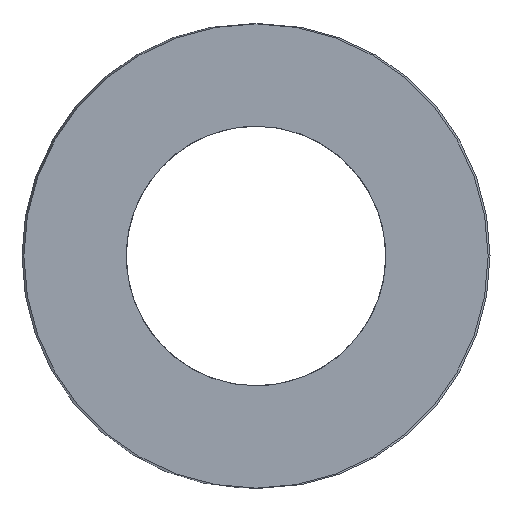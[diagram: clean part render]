
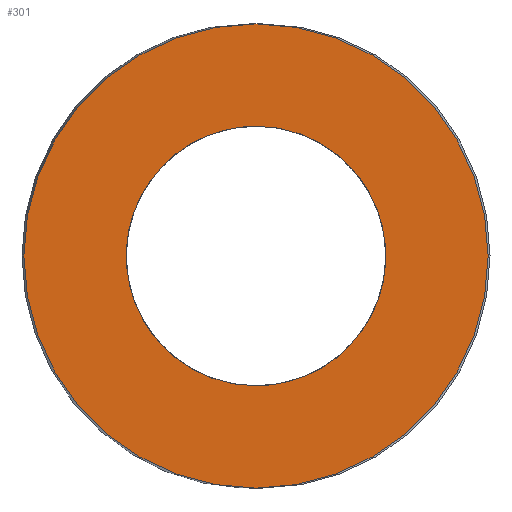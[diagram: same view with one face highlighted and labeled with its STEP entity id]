
A CAD part, left-side view. The second image highlights one B-rep face of the part: STEP entity #301.
In plain terms, the highlighted planar face has unit normal (-1, 0, 0).
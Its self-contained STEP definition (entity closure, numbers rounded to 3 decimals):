
#63=CARTESIAN_POINT('Vertex',(0.,12.25,0.)) ;
#77=CARTESIAN_POINT('Vertex',(0.,-12.25,0.)) ;
#80=CARTESIAN_POINT('Axis2P3D Location',(0.,0.,0.)) ;
#97=CARTESIAN_POINT('Axis2P3D Location',(0.,0.,0.)) ;
#232=CARTESIAN_POINT('Axis2P3D Location',(0.,6.125,0.)) ;
#242=CARTESIAN_POINT('Control Point',(0.,0.,-6.85)) ;
#243=CARTESIAN_POINT('Control Point',(0.,0.641,-6.85)) ;
#244=CARTESIAN_POINT('Control Point',(0.,1.282,-6.775)) ;
#245=CARTESIAN_POINT('Control Point',(0.,1.912,-6.625)) ;
#246=CARTESIAN_POINT('Control Point',(0.,3.124,-6.181)) ;
#247=CARTESIAN_POINT('Control Point',(0.,4.2,-5.468)) ;
#248=CARTESIAN_POINT('Control Point',(0.,4.694,-5.051)) ;
#249=CARTESIAN_POINT('Control Point',(0.,5.576,-4.107)) ;
#250=CARTESIAN_POINT('Control Point',(0.,6.215,-2.986)) ;
#251=CARTESIAN_POINT('Control Point',(0.,6.468,-2.39)) ;
#252=CARTESIAN_POINT('Control Point',(0.,6.829,-1.151)) ;
#253=CARTESIAN_POINT('Control Point',(0.,6.894,0.139)) ;
#254=CARTESIAN_POINT('Control Point',(0.,6.851,0.784)) ;
#255=CARTESIAN_POINT('Control Point',(0.,6.614,2.053)) ;
#256=CARTESIAN_POINT('Control Point',(0.,6.09,3.233)) ;
#257=CARTESIAN_POINT('Control Point',(0.,5.76,3.79)) ;
#258=CARTESIAN_POINT('Control Point',(0.,4.977,4.816)) ;
#259=CARTESIAN_POINT('Control Point',(0.,3.977,5.633)) ;
#260=CARTESIAN_POINT('Control Point',(0.,3.432,5.981)) ;
#261=CARTESIAN_POINT('Control Point',(0.,2.436,6.462)) ;
#262=CARTESIAN_POINT('Control Point',(0.,1.368,6.735)) ;
#263=CARTESIAN_POINT('Control Point',(0.,0.915,6.812)) ;
#264=CARTESIAN_POINT('Control Point',(0.,0.457,6.85)) ;
#265=CARTESIAN_POINT('Control Point',(0.,0.,6.85)) ;
#266=CARTESIAN_POINT('Vertex',(0.,0.,-6.85)) ;
#268=CARTESIAN_POINT('Vertex',(0.,0.,6.85)) ;
#272=CARTESIAN_POINT('Control Point',(0.,0.,6.85)) ;
#273=CARTESIAN_POINT('Control Point',(0.,-0.641,6.85)) ;
#274=CARTESIAN_POINT('Control Point',(0.,-1.282,6.775)) ;
#275=CARTESIAN_POINT('Control Point',(0.,-1.912,6.625)) ;
#276=CARTESIAN_POINT('Control Point',(0.,-3.124,6.181)) ;
#277=CARTESIAN_POINT('Control Point',(0.,-4.2,5.468)) ;
#278=CARTESIAN_POINT('Control Point',(0.,-4.694,5.051)) ;
#279=CARTESIAN_POINT('Control Point',(0.,-5.576,4.107)) ;
#280=CARTESIAN_POINT('Control Point',(0.,-6.215,2.986)) ;
#281=CARTESIAN_POINT('Control Point',(0.,-6.468,2.39)) ;
#282=CARTESIAN_POINT('Control Point',(0.,-6.829,1.151)) ;
#283=CARTESIAN_POINT('Control Point',(0.,-6.894,-0.139)) ;
#284=CARTESIAN_POINT('Control Point',(0.,-6.851,-0.784)) ;
#285=CARTESIAN_POINT('Control Point',(0.,-6.614,-2.053)) ;
#286=CARTESIAN_POINT('Control Point',(0.,-6.09,-3.233)) ;
#287=CARTESIAN_POINT('Control Point',(0.,-5.76,-3.79)) ;
#288=CARTESIAN_POINT('Control Point',(0.,-4.977,-4.816)) ;
#289=CARTESIAN_POINT('Control Point',(0.,-3.977,-5.633)) ;
#290=CARTESIAN_POINT('Control Point',(0.,-3.432,-5.981)) ;
#291=CARTESIAN_POINT('Control Point',(0.,-2.436,-6.462)) ;
#292=CARTESIAN_POINT('Control Point',(0.,-1.368,-6.735)) ;
#293=CARTESIAN_POINT('Control Point',(0.,-0.915,-6.812)) ;
#294=CARTESIAN_POINT('Control Point',(0.,-0.457,-6.85)) ;
#295=CARTESIAN_POINT('Control Point',(0.,0.,-6.85)) ;
#81=DIRECTION('Axis2P3D Direction',(1.,-0.,0.)) ;
#98=DIRECTION('Axis2P3D Direction',(1.,-0.,0.)) ;
#233=DIRECTION('Axis2P3D Direction',(-1.,0.,0.)) ;
#234=DIRECTION('Axis2P3D XDirection',(0.,1.,0.)) ;
#82=AXIS2_PLACEMENT_3D('Circle Axis2P3D',#80,#81,$) ;
#99=AXIS2_PLACEMENT_3D('Circle Axis2P3D',#97,#98,$) ;
#235=AXIS2_PLACEMENT_3D('Plane Axis2P3D',#232,#233,#234) ;
#238=ORIENTED_EDGE('',*,*,#84,.T.) ;
#239=ORIENTED_EDGE('',*,*,#101,.T.) ;
#298=ORIENTED_EDGE('',*,*,#270,.T.) ;
#299=ORIENTED_EDGE('',*,*,#296,.T.) ;
#300=FACE_BOUND('',#297,.T.) ;
#301=ADVANCED_FACE('392-B25-038',(#240,#300),#236,.T.) ;
#241=B_SPLINE_CURVE_WITH_KNOTS('',5,(#242,#243,#244,#245,#246,#247,#248,#249,#250,#251,#252,#253,#254,#255,#256,#257,#258,#259,#260,#261,#262,#263,#264,#265),.UNSPECIFIED.,.F.,.U.,(6,3,3,3,3,3,3,6),(0.,4.533,9.066,13.6,18.133,22.666,27.199,30.433),.UNSPECIFIED.) ;
#271=B_SPLINE_CURVE_WITH_KNOTS('',5,(#272,#273,#274,#275,#276,#277,#278,#279,#280,#281,#282,#283,#284,#285,#286,#287,#288,#289,#290,#291,#292,#293,#294,#295),.UNSPECIFIED.,.F.,.U.,(6,3,3,3,3,3,3,6),(0.,4.533,9.066,13.6,18.133,22.666,27.199,30.433),.UNSPECIFIED.) ;
#83=CIRCLE('generated circle',#82,12.25) ;
#100=CIRCLE('generated circle',#99,12.25) ;
#84=EDGE_CURVE('',#64,#78,#83,.F.) ;
#101=EDGE_CURVE('',#78,#64,#100,.F.) ;
#270=EDGE_CURVE('',#267,#269,#241,.T.) ;
#296=EDGE_CURVE('',#269,#267,#271,.T.) ;
#237=EDGE_LOOP('',(#238,#239)) ;
#297=EDGE_LOOP('',(#298,#299)) ;
#240=FACE_OUTER_BOUND('',#237,.T.) ;
#236=PLANE('Plane',#235) ;
#64=VERTEX_POINT('',#63) ;
#78=VERTEX_POINT('',#77) ;
#267=VERTEX_POINT('',#266) ;
#269=VERTEX_POINT('',#268) ;
